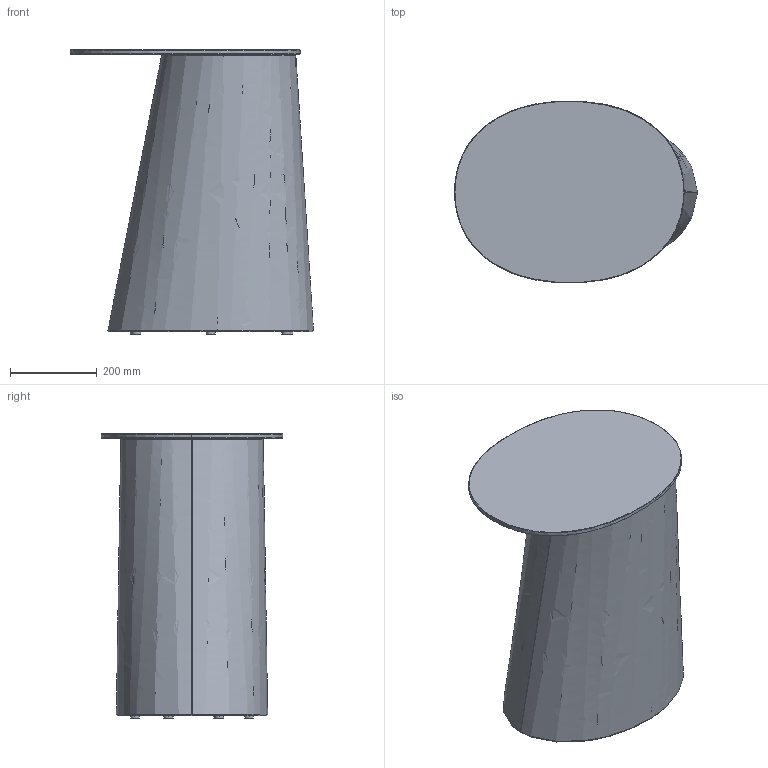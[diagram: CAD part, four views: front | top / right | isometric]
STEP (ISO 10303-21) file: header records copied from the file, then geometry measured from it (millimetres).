
FILE_DESCRIPTION(/* description */ (''),/* implementation_level */ '2;1');
FILE_NAME(/* name */ 'Pli-Side-Table-High_3D_20231027',/* time_stamp */ '2023-10-27T14:38:31+02:00',/* author */ (''),/* organization */ (''),/* preprocessor_version */ 'ST-DEVELOPER v16.5',/* originating_system */ 'Rhino 7.34',/* authorisation */ '');
FILE_SCHEMA (('CONFIG_CONTROL_DESIGN'));
Length unit declared in the file: millimetre
Products named in the file (1): Document
Bounding box: 560.76 x 418.32 x 656 mm (x, y, z)
Volume: 1186824 mm3; surface area: 1970731 mm2
Topology: 1 solids, 1 shells, 107 faces, 268 edges, 164 vertices
Faces by surface type: plane 55, cylinder 38, bspline 14
Entity records: 47297 total; most frequent: CARTESIAN_POINT 45387, ORIENTED_EDGE 536, EDGE_CURVE 268, B_SPLINE_CURVE_WITH_KNOTS 198, VERTEX_POINT 164, EDGE_LOOP 126, ADVANCED_FACE 107, FACE_OUTER_BOUND 107
